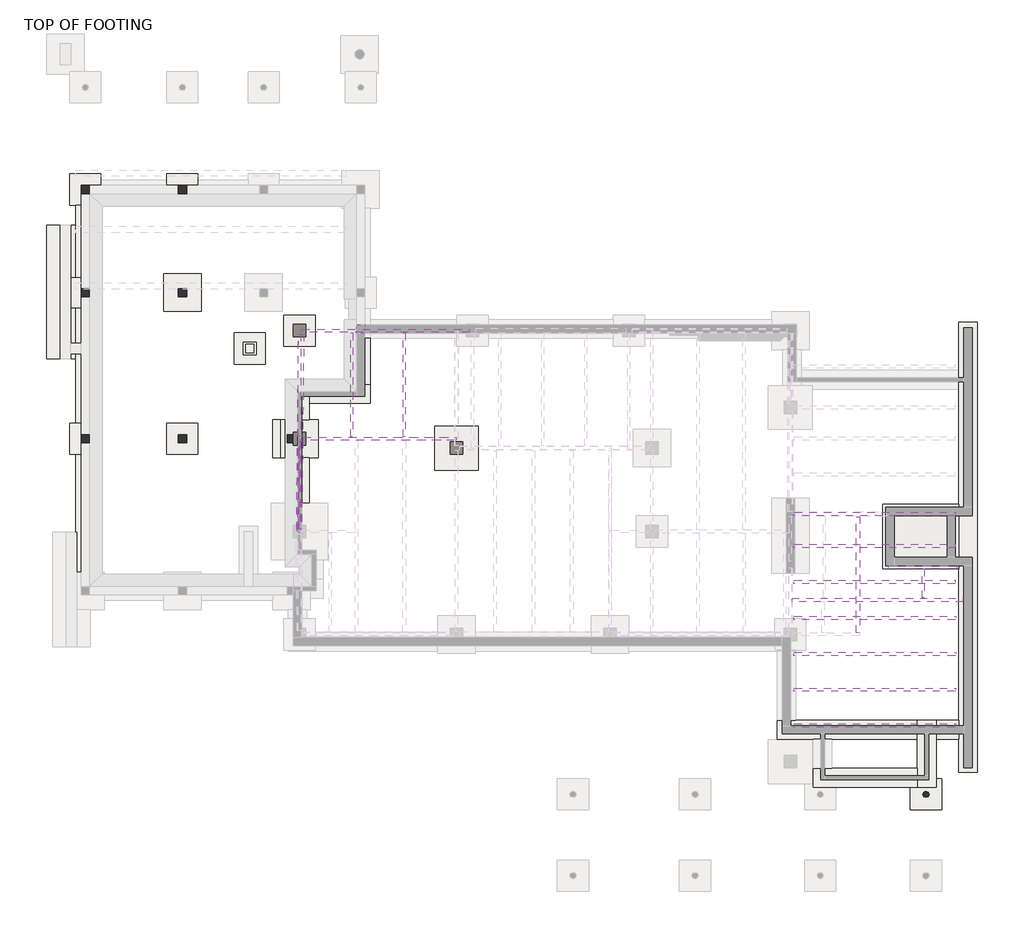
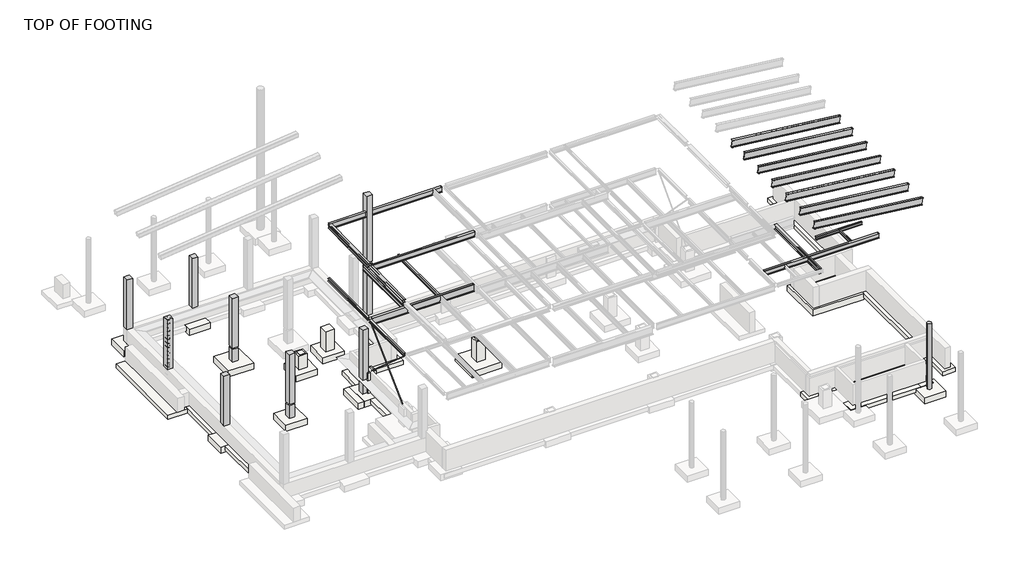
# One storey, part 3 of 5: 20 beams, 13 slabs, 9 columns, 9 footings, 2 members.
"""IFC4 building model written with IfcOpenShell, lengths in millimetres."""

from ifc_helpers import new_model, si_unit, point, frame, frame_2d, origin, place, context, project, spatial, polyline, circle_curve, trimmed, segment, composite_curve, outline, extrude, faceted_brep, transform, mapped, element, save
from components import w_wide_flange_w10x12_2b4455fd, w_wide_flange_w10x49_85831f45, w_wide_flange_w10x49_791f69d4, w_wide_flange_w12x14_94fda763, w_wide_flange_w14x30_e86b3798, w_wide_flange_w14x30_a3fd6266, w_wide_flange_w16x26_a9c838cc, w_wide_flange_w16x26_3658d20b, w_wide_flange_w21x44_417b1038, w_wide_flange_w21x44_42aa095b, w_wide_flange_w21x44_dd8e647a, w_wide_flange_w21x44_bf9ef094, w_wide_flange_w21x44_aedf4de2, w_wide_flange_w21x44_8a3b57d7, w_wide_flange_w21x44_bc81a974, w_wide_flange_w21x44_aeefe74e, w_wide_flange_w8x10_f6404ef0, w_wide_flange_w8x18_62c2d6be, w_wide_flange_w8x18_57e2a91b, slab_df1ede25, slab_6d6a3403, footing_rectangular_with_pier_073162b1, footing_rectangular_with_pier_64681127, footing_rectangular_with_pier_b4053baf

model = new_model("IFC4")

# Units and contexts
model_context = context("Model", 3, world=origin())
ifc_project = project(units=[si_unit("LENGTHUNIT", "METRE", prefix="MILLI")], contexts=[model_context])

# Site, building, storey
site = spatial("IfcSite", under=ifc_project)
building = spatial("IfcBuilding", under=site)
storey = spatial("IfcBuildingStorey", under=building, Name="TOP OF FOOTING", Elevation=28905.2)

# Beams
placement = place(None, origin())
w_wide_flange_w10x12_shape = w_wide_flange_w10x12_2b4455fd(model_context)
element("IfcBeam", 1, ObjectType="W-Wide Flange : W10X12", at=placement, inside=storey, context=model_context, shape_type="MappedRepresentation", body=[
    mapped(w_wide_flange_w10x12_shape, transform((-5235.678794, 5212.7570005, 34253.551), x_axis=(0.0, -1.0, 0.0), y_axis=(1.0, 0.0, 0.0), z_axis=(0.0, 0.0, 1.0))),
])
w_wide_flange_w10x49_shape = w_wide_flange_w10x49_85831f45(model_context)
element("IfcBeam", 2, ObjectType="W-Wide Flange : W10X49", at=placement, inside=storey, context=model_context, shape_type="MappedRepresentation", body=[
    mapped(w_wide_flange_w10x49_shape, transform((-10329.1914876, 323.1484491, 38341.3), x_axis=(0.010666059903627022, 0.9999431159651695, 0.0), y_axis=(-0.9999431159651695, 0.010666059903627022, 0.0), z_axis=(0.0, 0.0, 1.0))),
])
w_wide_flange_w10x49_2_shape = w_wide_flange_w10x49_791f69d4(model_context)
element("IfcBeam", 3, ObjectType="W-Wide Flange : W10X49", at=placement, inside=storey, context=model_context, shape_type="MappedRepresentation", body=[
    mapped(w_wide_flange_w10x49_2_shape, transform((-10277.0536, 5211.0754143, 38341.3), x_axis=(0.010666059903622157, 0.9999431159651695, 0.0), y_axis=(-0.9999431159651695, 0.010666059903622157, 0.0), z_axis=(0.0, 0.0, 1.0))),
])
w_wide_flange_w12x14_shape = w_wide_flange_w12x14_94fda763(model_context)
element("IfcBeam", 4, ObjectType="W-Wide Flange : W12X14", at=placement, inside=storey, context=model_context, shape_type="MappedRepresentation", body=[
    mapped(w_wide_flange_w12x14_shape, transform((-7781.4996274, 5212.7570005, 34227.77), x_axis=(0.0, -1.0, 0.0), y_axis=(1.0, 0.0, 0.0), z_axis=(0.0, 0.0, 1.0))),
])
w_wide_flange_w14x30_shape = w_wide_flange_w14x30_e86b3798(model_context)
element("IfcBeam", 5, ObjectType="W-Wide Flange : W14X30", at=placement, inside=storey, context=model_context, shape_type="MappedRepresentation", body=[
    mapped(w_wide_flange_w14x30_shape, transform((16860.2045393, -4013.7929995, 34203.1339844), x_axis=(0.0, -1.0, 0.0), y_axis=(1.0, 0.0, 0.0), z_axis=(0.0, 0.0, 1.0))),
])
w_wide_flange_w14x30_2_shape = w_wide_flange_w14x30_a3fd6266(model_context)
element("IfcBeam", 6, ObjectType="W-Wide Flange : W14X30", at=placement, inside=storey, context=model_context, shape_type="MappedRepresentation", body=[
    mapped(w_wide_flange_w14x30_2_shape, transform((17765.6930355, -5266.3304995, 34203.1339844), x_axis=(1.0, 0.0, 0.0), y_axis=(0.0, 1.0, 0.0), z_axis=(0.0, 0.0, 1.0))),
])
w_wide_flange_w16x26_shape = w_wide_flange_w16x26_a9c838cc(model_context)
element("IfcBeam", 7, ObjectType="W-Wide Flange : W16X26", at=placement, inside=storey, context=model_context, shape_type="MappedRepresentation", body=[
    mapped(w_wide_flange_w16x26_shape, transform((-6508.5892107, 2582.2695005, 38205.41), x_axis=(1.0, 0.0, 0.0), y_axis=(0.0, 1.0, 0.0), z_axis=(0.0, 0.0, 1.0))),
])
w_wide_flange_w16x26_2_shape = w_wide_flange_w16x26_3658d20b(model_context)
element("IfcBeam", 8, ObjectType="W-Wide Flange : W16X26", at=placement, inside=storey, context=model_context, shape_type="MappedRepresentation", body=[
    mapped(w_wide_flange_w16x26_2_shape, transform((-6107.7454607, 7843.2445005, 38205.41), x_axis=(1.0, 0.0, 0.0), y_axis=(0.0, 1.0, 0.0), z_axis=(0.0, 0.0, 1.0))),
])
w_wide_flange_w21x44_shape = w_wide_flange_w21x44_417b1038(model_context)
element("IfcBeam", 9, ObjectType="W-Wide Flange : W21X44", at=placement, inside=storey, context=model_context, shape_type="MappedRepresentation", body=[
    mapped(w_wide_flange_w21x44_shape, transform((-6508.5892107, 2582.2695005, 34116.01), x_axis=(1.0, 0.0, 0.0), y_axis=(0.0, 1.0, 0.0), z_axis=(0.0, 0.0, 1.0))),
])
w_wide_flange_w21x44_2_shape = w_wide_flange_w21x44_42aa095b(model_context)
element("IfcBeam", 10, ObjectType="W-Wide Flange : W21X44", at=placement, inside=storey, context=model_context, shape_type="MappedRepresentation", body=[
    mapped(w_wide_flange_w21x44_2_shape, transform((17638.6179777, -2648.5678042, 41130.9707091), x_axis=(0.993803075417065, 0.0, -0.1111550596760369), y_axis=(0.0, 1.0000000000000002, 0.0), z_axis=(0.1111550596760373, 0.0, 0.9938030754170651))),
])
w_wide_flange_w21x44_3_shape = w_wide_flange_w21x44_dd8e647a(model_context)
element("IfcBeam", 11, ObjectType="W-Wide Flange : W21X44", at=placement, inside=storey, context=model_context, shape_type="MappedRepresentation", body=[
    mapped(w_wide_flange_w21x44_3_shape, transform((17638.6280266, -1084.8554995, 41130.9695852), x_axis=(0.993803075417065, 0.0, -0.1111550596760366), y_axis=(0.0, 1.0, 0.0), z_axis=(0.11115505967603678, 0.0, 0.9938030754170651))),
])
w_wide_flange_w21x44_4_shape = w_wide_flange_w21x44_bf9ef094(model_context)
element("IfcBeam", 12, ObjectType="W-Wide Flange : W21X44", at=placement, inside=storey, context=model_context, shape_type="MappedRepresentation", body=[
    mapped(w_wide_flange_w21x44_4_shape, transform((17644.6506444, -11391.7447247, 41130.2959664), x_axis=(0.9938030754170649, 0.0, -0.11115505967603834), y_axis=(0.0, 1.0000000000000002, 0.0), z_axis=(0.11115505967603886, 0.0, 0.9938030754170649))),
])
w_wide_flange_w21x44_5_shape = w_wide_flange_w21x44_aedf4de2(model_context)
element("IfcBeam", 13, ObjectType="W-Wide Flange : W21X44", at=placement, inside=storey, context=model_context, shape_type="MappedRepresentation", body=[
    mapped(w_wide_flange_w21x44_5_shape, transform((17643.3647414, -9643.1093406, 41130.4397923), x_axis=(0.9938030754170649, 0.0, -0.11115505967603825), y_axis=(0.0, 1.0, 0.0), z_axis=(0.11115505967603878, 0.0, 0.9938030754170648))),
])
w_wide_flange_w21x44_6_shape = w_wide_flange_w21x44_8a3b57d7(model_context)
element("IfcBeam", 14, ObjectType="W-Wide Flange : W21X44", at=placement, inside=storey, context=model_context, shape_type="MappedRepresentation", body=[
    mapped(w_wide_flange_w21x44_6_shape, transform((17642.0788384, -7894.4739565, 41130.5836182), x_axis=(0.9938030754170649, 0.0, -0.11115505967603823), y_axis=(0.0, 1.0, 0.0), z_axis=(0.11115505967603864, 0.0, 0.9938030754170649))),
])
w_wide_flange_w21x44_7_shape = w_wide_flange_w21x44_bc81a974(model_context)
element("IfcBeam", 15, ObjectType="W-Wide Flange : W21X44", at=placement, inside=storey, context=model_context, shape_type="MappedRepresentation", body=[
    mapped(w_wide_flange_w21x44_7_shape, transform((17640.7929353, -6145.8385724, 41130.7274441), x_axis=(0.9938030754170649, 0.0, -0.1111550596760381), y_axis=(0.0, 1.0, 0.0), z_axis=(0.1111550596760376, 0.0, 0.993803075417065))),
])
w_wide_flange_w21x44_8_shape = w_wide_flange_w21x44_aeefe74e(model_context)
element("IfcBeam", 16, ObjectType="W-Wide Flange : W21X44", at=placement, inside=storey, context=model_context, shape_type="MappedRepresentation", body=[
    mapped(w_wide_flange_w21x44_8_shape, transform((17639.5070323, -4397.2031883, 41130.87127), x_axis=(0.993803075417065, 0.0, -0.11115505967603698), y_axis=(0.0, 1.0, 0.0), z_axis=(0.11115505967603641, 0.0, 0.993803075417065))),
])
w_wide_flange_w8x10_shape = w_wide_flange_w8x10_f6404ef0(model_context)
element("IfcBeam", 17, ObjectType="W-Wide Flange : W8X10", at=placement, inside=storey, context=model_context, shape_type="MappedRepresentation", body=[
    mapped(w_wide_flange_w8x10_shape, transform((20035.2045393, -4470.9929995, 34278.697), x_axis=(0.0, 1.0, 0.0), y_axis=(-1.0, 0.0, 0.0), z_axis=(0.0, 0.0, 1.0))),
])
element("IfcBeam", 18, ObjectType="W-Wide Flange : W8X18", at=placement, inside=storey, context=model_context, shape_type="SweptSolid", body=[
    extrude(outline(composite_curve([segment(polyline([(34180.526, -10260.6454607), (34180.526, -10312.1439607)]), True, "CONTINUOUS"), segment(trimmed(circle_curve(frame_2d((34192.7815, -10312.1439607)), 12.2555), [point((34180.526, -10312.1439607))], [point((34192.7815, -10324.3994607))], True, "CARTESIAN"), True, "CONTINUOUS"), segment(polyline([(34192.7815, -10324.3994607), (34358.2625, -10324.3994607)]), True, "CONTINUOUS"), segment(trimmed(circle_curve(frame_2d((34358.2625, -10312.1439607)), 12.2555), [point((34358.2625, -10324.3994607))], [point((34370.518, -10312.1439607))], True, "CARTESIAN"), True, "CONTINUOUS"), segment(polyline([(34370.518, -10312.1439607), (34370.518, -10260.6454607), (34378.9, -10260.6454607), (34378.9, -10393.9954607), (34370.518, -10393.9954607), (34370.518, -10342.4969607)]), True, "CONTINUOUS"), segment(trimmed(circle_curve(frame_2d((34358.2625, -10342.4969607)), 12.2555), [point((34370.518, -10342.4969607))], [point((34358.2625, -10330.2414607))], True, "CARTESIAN"), True, "CONTINUOUS"), segment(polyline([(34358.2625, -10330.2414607), (34192.7815, -10330.2414607)]), True, "CONTINUOUS"), segment(trimmed(circle_curve(frame_2d((34192.7815, -10342.4969607)), 12.2555), [point((34192.7815, -10330.2414607))], [point((34180.526, -10342.4969607))], True, "CARTESIAN"), True, "CONTINUOUS"), segment(polyline([(34180.526, -10342.4969607), (34180.526, -10393.9954607), (34172.144, -10393.9954607), (34172.144, -10260.6454607), (34180.526, -10260.6454607)]), True, "CONTINUOUS")], self_intersect=False)), frame((0.0, -1820.3779639, 0.0), z_axis=(0.0, 1.0, 0.0), x_axis=(0.0, 0.0, 1.0)), (0.0, 0.0, 1.0), 4288.297855),
])
w_wide_flange_w8x18_shape = w_wide_flange_w8x18_62c2d6be(model_context)
element("IfcBeam", 19, ObjectType="W-Wide Flange : W8X18", at=placement, inside=storey, context=model_context, shape_type="MappedRepresentation", body=[
    mapped(w_wide_flange_w8x18_shape, transform((-10327.3204607, 5211.4620266, 34275.522), x_axis=(0.0, -1.0, 0.0), y_axis=(1.0, 0.0, 0.0), z_axis=(0.0, 0.0, 1.0))),
])
w_wide_flange_w8x18_2_shape = w_wide_flange_w8x18_57e2a91b(model_context)
element("IfcBeam", 20, ObjectType="W-Wide Flange : W8X18", at=placement, inside=storey, context=model_context, shape_type="MappedRepresentation", body=[
    mapped(w_wide_flange_w8x18_2_shape, transform((20017.7420393, -3675.6554995, 34275.522), x_axis=(1.0, 0.0, 0.0), y_axis=(0.0, 1.0, 0.0), z_axis=(0.0, 0.0, 1.0))),
])

# Columns
element("IfcColumn", 21, ObjectType="Concrete-Rectangular-Column : 16 x 16", at=placement, inside=storey, context=model_context, shape_type="Brep", body=[
    faceted_brep([(-20560.3454607, 14926.6695005, 33782.0), (-20560.3454607, 14520.2695005, 33782.0), (-20560.3454607, 14520.2695005, 29972.0), (-20560.3454607, 14926.6695005, 29972.0), (-20966.7454607, 14520.2695005, 33782.0), (-20966.7454607, 14520.2695005, 29972.0), (-20966.7454607, 14926.6695005, 33782.0), (-20966.7454607, 14926.6695005, 29972.0), (-20661.9454607, 14926.6695005, 33782.0)], [[[0, 1, 2, 3]], [[1, 4, 5, 2]], [[4, 6, 7, 5]], [[6, 8, 0, 3, 7]], [[1, 0, 8, 6, 4]], [[3, 2, 5, 7]]]),
])
element("IfcColumn", 22, ObjectType="Concrete-Rectangular-Column : 16 x 16", at=placement, inside=storey, context=model_context, shape_type="SweptSolid", body=[
    extrude(outline(polyline([(-15835.9454607, 14926.6695005), (-15835.9454607, 14520.2695005), (-16242.3454607, 14520.2695005), (-16242.3454607, 14926.6695005), (-15835.9454607, 14926.6695005)])), frame((0.0, 0.0, 29972.0), z_axis=(0.0, 0.0, 1.0), x_axis=(1.0, 0.0, 0.0)), (0.0, 0.0, 1.0), 3810.0),
])
element("IfcColumn", 23, ObjectType="Concrete-Rectangular-Column : 16 x 16", at=placement, inside=storey, context=model_context, shape_type="Brep", body=[
    faceted_brep([(-20560.3454607, 9897.4695005, 33782.0), (-20560.3454607, 9491.0695005, 33782.0), (-20560.3454607, 9491.0695005, 29972.0), (-20560.3454607, 9897.4695005, 29972.0), (-20661.9454607, 9491.0695005, 33782.0), (-20966.7454607, 9491.0695005, 33782.0), (-20966.7454607, 9491.0695005, 29972.0), (-20966.7454607, 9897.4695005, 33782.0), (-20966.7454607, 9897.4695005, 29972.0)], [[[0, 1, 2, 3]], [[1, 4, 5, 6, 2]], [[5, 7, 8, 6]], [[7, 0, 3, 8]], [[1, 0, 7, 5, 4]], [[3, 2, 6, 8]]]),
])
element("IfcColumn", 24, ObjectType="Concrete-Rectangular-Column : 16 x 16", at=placement, inside=storey, context=model_context, shape_type="Brep", body=[
    faceted_brep([(-15835.9454607, 9897.4695005, 28905.2), (-15835.9454607, 9491.0695005, 28905.2), (-16242.3454607, 9491.0695005, 28905.2), (-16242.3454607, 9897.4695005, 28905.2), (-15835.9454607, 9491.0695005, 29870.4), (-15835.9454607, 9897.4695005, 29870.4), (-16242.3454607, 9897.4695005, 29870.4), (-16242.3454607, 9491.0695005, 29870.4)], [[[0, 1, 2, 3]], [[4, 5, 6, 7]], [[1, 0, 5, 4]], [[2, 1, 4, 7]], [[3, 2, 7, 6]], [[0, 3, 6, 5]]]),
    faceted_brep([(-15835.9454607, 9897.4695005, 33782.0), (-15835.9454607, 9491.0695005, 33782.0), (-15835.9454607, 9491.0695005, 29972.0), (-15835.9454607, 9897.4695005, 29972.0), (-15886.7454607, 9491.0695005, 33782.0), (-16191.5454607, 9491.0695005, 33782.0), (-16242.3454607, 9491.0695005, 33782.0), (-16242.3454607, 9491.0695005, 29972.0), (-16242.3454607, 9897.4695005, 33782.0), (-16242.3454607, 9897.4695005, 29972.0)], [[[0, 1, 2, 3]], [[1, 4, 5, 6, 7, 2]], [[6, 8, 9, 7]], [[8, 0, 3, 9]], [[1, 0, 8, 6, 5, 4]], [[3, 2, 7, 9]]]),
])
element("IfcColumn", 25, ObjectType="Concrete-Rectangular-Column : 16 x 16", at=placement, inside=storey, context=model_context, shape_type="SweptSolid", body=[
    extrude(outline(polyline([(-20560.3454607, 2785.4695005), (-20560.3454607, 2379.0695005), (-20966.7454607, 2379.0695005), (-20966.7454607, 2785.4695005), (-20560.3454607, 2785.4695005)])), frame((0.0, 0.0, 29972.0), z_axis=(0.0, 0.0, 1.0), x_axis=(1.0, 0.0, 0.0)), (0.0, 0.0, 1.0), 3810.0),
])
element("IfcColumn", 26, ObjectType="Concrete-Rectangular-Column : 16 x 16", at=placement, inside=storey, context=model_context, shape_type="SweptSolid", body=[
    extrude(outline(polyline([(-10529.7763201, 2785.4695005), (-10529.7763201, 2379.0695005), (-10936.1763201, 2379.0695005), (-10936.1763201, 2785.4695005), (-10529.7763201, 2785.4695005)])), frame((0.0, 0.0, 28905.2), z_axis=(0.0, 0.0, 1.0), x_axis=(1.0, 0.0, 0.0)), (0.0, 0.0, 1.0), 965.2),
    extrude(outline(polyline([(-10529.7763201, 2785.4695005), (-10529.7763201, 2379.0695005), (-10936.1763201, 2379.0695005), (-10936.1763201, 2785.4695005), (-10529.7763201, 2785.4695005)])), frame((0.0, 0.0, 29972.0), z_axis=(0.0, 0.0, 1.0), x_axis=(1.0, 0.0, 0.0)), (0.0, 0.0, 1.0), 3810.0),
])
element("IfcColumn", 27, ObjectType="Concrete-Rectangular-Column : 16 x 16", at=placement, inside=storey, context=model_context, shape_type="SweptSolid", body=[
    extrude(outline(polyline([(-15835.9454607, 2785.4695005), (-15835.9454607, 2379.0695005), (-16242.3454607, 2379.0695005), (-16242.3454607, 2785.4695005), (-15835.9454607, 2785.4695005)])), frame((0.0, 0.0, 28905.2), z_axis=(0.0, 0.0, 1.0), x_axis=(1.0, 0.0, 0.0)), (0.0, 0.0, 1.0), 965.2),
    extrude(outline(polyline([(-15835.9454607, 2785.4695005), (-15835.9454607, 2379.0695005), (-16242.3454607, 2379.0695005), (-16242.3454607, 2785.4695005), (-15835.9454607, 2785.4695005)])), frame((0.0, 0.0, 29972.0), z_axis=(0.0, 0.0, 1.0), x_axis=(1.0, 0.0, 0.0)), (0.0, 0.0, 1.0), 3810.0),
])
element("IfcColumn", 28, ObjectType="Concrete-Rectangular-Column : 16 x 16", at=placement, inside=storey, context=model_context, shape_type="Brep", body=[
    faceted_brep([(-7149.1454607, 8132.1695005, 39622.9085937), (-7149.1454607, 7725.7695005, 39622.9085937), (-7149.1454607, 7725.7695005, 38595.3), (-7149.1454607, 7725.7695005, 38468.3), (-7149.1454607, 7725.7695005, 34544.0), (-7149.1454607, 7944.8445005, 34544.0), (-7149.1454607, 7944.8445005, 34378.9), (-7149.1454607, 7725.7695005, 34378.9), (-7149.1454607, 7725.7695005, 30480.0), (-7149.1454607, 8132.1695005, 30480.0), (-7149.1454607, 8132.1695005, 33782.0), (-7149.1454607, 8132.1695005, 34036.0), (-7149.1454607, 8132.1695005, 34239.2), (-7555.5454607, 7725.7695005, 39622.9085937), (-7555.5454607, 7725.7695005, 38595.3), (-7555.5454607, 7725.7695005, 38468.3), (-7555.5454607, 7725.7695005, 34544.0), (-7555.5454607, 8132.1695005, 39622.9085937), (-7555.5454607, 8132.1695005, 34239.2), (-7555.5454607, 8132.1695005, 34036.0), (-7555.5454607, 8132.1695005, 30480.0), (-7555.5454607, 7725.7695005, 30480.0), (-7555.5454607, 7725.7695005, 34378.9), (-7555.5454607, 7944.8445005, 34378.9), (-7555.5454607, 7944.8445005, 34544.0)], [[[0, 1, 2, 3, 4, 5, 6, 7, 8, 9, 10, 11, 12]], [[1, 13, 14, 15, 16, 4, 3, 2]], [[13, 17, 18, 19, 20, 21, 22, 23, 24, 16, 15, 14]], [[17, 0, 12, 11, 10, 9, 20, 19, 18]], [[1, 0, 17, 13]], [[9, 8, 21, 20]], [[6, 23, 22, 7]], [[24, 5, 4, 16]], [[23, 6, 5, 24]], [[21, 8, 7, 22]]]),
])
element("IfcColumn", 29, ObjectType="Concrete-Round-Column1 : 12\"", at=placement, inside=storey, context=model_context, shape_type="SweptSolid", body=[
    extrude(outline(composite_curve([segment(trimmed(circle_curve(frame_2d((20168.0462086, -14731.7497924)), 152.4), [point((20015.6462086, -14731.7497924))], [point((20320.4462086, -14731.7497924))], False, "CARTESIAN"), True, "CONTINUOUS"), segment(trimmed(circle_curve(frame_2d((20168.0462086, -14731.7497924)), 152.4), [point((20320.4462086, -14731.7497924))], [point((20015.6462086, -14731.7497924))], False, "CARTESIAN"), True, "CONTINUOUS")], self_intersect=False)), frame((0.0, 0.0, 28854.4), z_axis=(0.0, 0.0, 1.0), x_axis=(1.0, 0.0, 0.0)), (0.0, 0.0, 1.0), 5003.8),
])

# Footings
element("IfcFooting", 30, ObjectType="Bearing Footing - 36\" x 12\"", at=placement, inside=storey, context=model_context, shape_type="Brep", body=[
    faceted_brep([(21765.578935, 8249.5948911, 28905.2), (22679.978935, 8249.5948911, 28905.2), (22679.978935, 8249.5948911, 28600.4), (21765.578935, 8249.5948911, 28600.4), (22679.978935, -13661.0304995, 28905.2), (21765.578935, -13661.0304995, 28905.2), (21765.578935, -13661.0304995, 28600.4), (22679.978935, -13661.0304995, 28600.4), (21765.578935, 5909.6695005, 28905.2), (21765.578935, 4995.2695005, 28905.2), (21765.578935, -11127.3804995, 28905.2), (21765.578935, -12041.7804995, 28905.2), (21765.578935, -12041.7804995, 28600.4), (21765.578935, -11127.3804995, 28600.4), (21765.578935, 4995.2695005, 28600.4), (21765.578935, 5909.6695005, 28600.4)], [[[0, 1, 2, 3]], [[4, 5, 6, 7]], [[0, 8, 9, 10, 11, 5, 4, 1]], [[2, 1, 4, 7]], [[3, 2, 7, 6, 12, 13, 14, 15]], [[0, 3, 15, 14, 13, 12, 6, 5, 11, 10, 9, 8]]]),
])
element("IfcFooting", 31, ObjectType="Bearing Footing - 36\" x 12\"", at=placement, inside=storey, context=model_context, shape_type="Brep", body=[
    faceted_brep([(19749.4545393, -11127.3804995, 28905.2), (19749.4545393, -12041.7804995, 28905.2), (19749.4545393, -13470.5304995, 28905.2), (19749.4545393, -14384.9304995, 28905.2), (20663.8545393, -14384.9304995, 28905.2), (20663.8545393, -12041.7804995, 28905.2), (20663.8545393, -11127.3804995, 28905.2), (19749.4545393, -11127.3804995, 28600.4), (19749.4545393, -12041.7804995, 28600.4), (19749.4545393, -13470.5304995, 28600.4), (19749.4545393, -13969.7497924, 28600.4), (19749.4545393, -13969.7497924, 28854.4), (19749.4545393, -14384.9304995, 28854.4), (20663.8545393, -11127.3804995, 28600.4), (20663.8545393, -12041.7804995, 28600.4), (20663.8545393, -13969.7497924, 28600.4), (20663.8545393, -14384.9304995, 28854.4), (20663.8545393, -13969.7497924, 28854.4)], [[[0, 1, 2, 3, 4, 5, 6]], [[3, 2, 1, 0, 7, 8, 9, 10, 11, 12]], [[7, 13, 14, 15, 10, 9, 8]], [[6, 5, 4, 16, 17, 15, 14, 13]], [[0, 6, 13, 7]], [[4, 3, 12, 16]], [[11, 17, 16, 12]], [[17, 11, 10, 15]]]),
])
element("IfcFooting", 32, ObjectType="Bearing Footing - 36\" x 12\"", at=placement, inside=storey, context=model_context, shape_type="Brep", body=[
    faceted_brep([(19749.4545393, -12041.7804995, 28905.2), (19749.4545393, -11127.3804995, 28905.2), (13837.6045393, -11127.3804995, 28905.2), (12923.2045393, -11127.3804995, 28905.2), (12923.2045393, -12041.7804995, 28905.2), (14682.1545393, -12041.7804995, 28905.2), (15596.5545393, -12041.7804995, 28905.2), (19749.4545393, -12041.7804995, 28600.4), (12923.2045393, -12041.7804995, 28600.4), (14682.1545393, -12041.7804995, 28600.4), (15596.5545393, -12041.7804995, 28600.4), (19749.4545393, -11127.3804995, 28600.4), (12923.2045393, -11127.3804995, 28600.4), (13837.6045393, -11127.3804995, 28600.4)], [[[0, 1, 2, 3, 4, 5, 6]], [[7, 0, 6, 5, 4, 8, 9, 10]], [[11, 7, 10, 9, 8, 12, 13]], [[1, 11, 13, 12, 3, 2]], [[1, 0, 7, 11]], [[4, 3, 12, 8]]]),
    faceted_brep([(20663.8545393, -11127.3804995, 28905.2), (20663.8545393, -12041.7804995, 28905.2), (21765.578935, -12041.7804995, 28905.2), (21765.578935, -11127.3804995, 28905.2), (20663.8545393, -12041.7804995, 28600.4), (21765.578935, -12041.7804995, 28600.4), (20663.8545393, -11127.3804995, 28600.4), (21765.578935, -11127.3804995, 28600.4)], [[[0, 1, 2, 3]], [[1, 4, 5, 2]], [[4, 6, 7, 5]], [[6, 0, 3, 7]], [[1, 0, 6, 4]], [[3, 2, 5, 7]]]),
])
element("IfcFooting", 33, ObjectType="Bearing Footing - 36\" x 12\"", at=placement, inside=storey, context=model_context, shape_type="Brep", body=[
    faceted_brep([(14682.1545393, -14384.9304995, 28905.2), (19749.4545393, -14384.9304995, 28905.2), (19749.4545393, -13470.5304995, 28905.2), (15596.5545393, -13470.5304995, 28905.2), (14682.1545393, -13470.5304995, 28905.2), (19749.4545393, -13470.5304995, 28600.4), (15596.5545393, -13470.5304995, 28600.4), (14682.1545393, -13470.5304995, 28600.4), (19749.4545393, -13969.7497924, 28600.4), (19406.0462086, -13969.7497924, 28600.4), (19406.0462086, -14384.9304995, 28600.4), (15786.5462086, -14384.9304995, 28600.4), (15786.5462086, -13969.7497924, 28600.4), (14682.1545393, -13969.7497924, 28600.4), (14682.1545393, -14384.9304995, 28854.4), (15786.5462086, -14384.9304995, 28854.4), (19406.0462086, -14384.9304995, 28854.4), (19749.4545393, -14384.9304995, 28854.4), (19749.4545393, -13969.7497924, 28854.4), (14682.1545393, -13969.7497924, 28854.4), (15786.5462086, -13969.7497924, 28854.4), (19406.0462086, -13969.7497924, 28854.4)], [[[0, 1, 2, 3, 4]], [[4, 3, 2, 5, 6, 7]], [[7, 6, 5, 8, 9, 10, 11, 12, 13]], [[1, 0, 14, 15, 11, 10, 16, 17]], [[2, 1, 17, 18, 8, 5]], [[0, 4, 7, 13, 19, 14]], [[20, 15, 14, 19]], [[12, 20, 19, 13]], [[15, 20, 12, 11]], [[16, 21, 18, 17]], [[18, 21, 9, 8]], [[21, 16, 10, 9]]]),
])
element("IfcFooting", 34, ObjectType="Bearing Footing - 36\" x 12\"", at=placement, inside=storey, context=model_context, shape_type="Brep", body=[
    faceted_brep([(-10784.5204607, -564.1554995, 28905.2), (-9870.1204607, -564.1554995, 28905.2), (-9870.1204607, 1667.8695005, 28905.2), (-10784.5204607, 1667.8695005, 28905.2), (-10784.5204607, -3396.2554995, 28905.2), (-10082.8454607, -3396.2554995, 28905.2), (-9870.1204607, -3396.2554995, 28905.2), (-9870.1204607, -3307.3554995, 28905.2), (-10784.5204607, -3307.3554995, 28905.2), (-10784.5204607, -564.1554995, 28625.8), (-10784.5204607, 1667.8695005, 28600.4), (-10784.5204607, -3396.2554995, 28600.4), (-10784.5204607, -3307.3554995, 28625.8), (-9870.1204607, -3396.2554995, 28600.4), (-10082.8454607, -3396.2554995, 28600.4), (-9870.1204607, 1667.8695005, 28600.4), (-9870.1204607, -2481.8554995, 28600.4), (-9870.1204607, -564.1554995, 28625.8), (-9870.1204607, -2481.8554995, 28625.8), (-9870.1204607, -3307.3554995, 28625.8)], [[[0, 1, 2, 3]], [[4, 5, 6, 7, 8]], [[9, 0, 3, 10, 11, 4, 8, 12]], [[13, 14, 11, 10, 15, 16]], [[1, 17, 18, 19, 7, 6, 13, 16, 15, 2]], [[1, 0, 9, 17]], [[3, 2, 15, 10]], [[6, 5, 4, 11, 14, 13]], [[8, 7, 19, 12]], [[17, 9, 12, 19, 18]]]),
    faceted_brep([(-9870.1204607, 5220.6945005, 28905.2), (-10784.5204607, 5220.6945005, 28905.2), (-10784.5204607, 3496.6695005, 28905.2), (-9870.1204607, 3496.6695005, 28905.2), (-9870.1204607, 4306.2945005, 28905.2), (-10784.5204607, 5220.6945005, 28600.4), (-10784.5204607, 3496.6695005, 28600.4), (-9870.1204607, 5220.6945005, 28600.4), (-9870.1204607, 4306.2945005, 28600.4), (-9870.1204607, 3496.6695005, 28600.4)], [[[0, 1, 2, 3, 4]], [[1, 5, 6, 2]], [[5, 7, 8, 9, 6]], [[7, 0, 4, 3, 9, 8]], [[3, 2, 6, 9]], [[1, 0, 7, 5]]]),
])
element("IfcFooting", 35, ObjectType="Bearing Footing - 36\" x 12\"", at=placement, inside=storey, context=model_context, shape_type="Brep", body=[
    faceted_brep([(-21220.7454607, -3907.4304995, 28905.2), (-20306.3454607, -3907.4304995, 28905.2), (-20306.3454607, 1820.2695005, 28905.2), (-21220.7454607, 1820.2695005, 28905.2), (-21220.7454607, -1964.3304995, 28905.2), (-21220.7454607, -3907.4304995, 28600.4), (-21220.7454607, 1820.2695005, 28600.4), (-21220.7454607, -1964.3304995, 28600.4), (-20306.3454607, -3907.4304995, 28600.4), (-20306.3454607, 1820.2695005, 28600.4)], [[[0, 1, 2, 3, 4]], [[5, 0, 4, 3, 6, 7]], [[8, 5, 7, 6, 9]], [[1, 8, 9, 2]], [[1, 0, 5, 8]], [[3, 2, 9, 6]]]),
    faceted_brep([(-21220.7454607, 3344.2695005, 28905.2), (-20306.3454607, 3344.2695005, 28905.2), (-20306.3454607, 8932.2695005, 28905.2), (-21220.7454607, 8932.2695005, 28905.2), (-21220.7454607, 6469.2695005, 28905.2), (-21220.7454607, 3344.2695005, 28600.4), (-21220.7454607, 8932.2695005, 28600.4), (-21220.7454607, 6469.2695005, 28600.4), (-20306.3454607, 3344.2695005, 28600.4), (-20306.3454607, 8932.2695005, 28600.4)], [[[0, 1, 2, 3, 4]], [[5, 0, 4, 3, 6, 7]], [[8, 5, 7, 6, 9]], [[1, 8, 9, 2]], [[1, 0, 5, 8]], [[3, 2, 9, 6]]]),
    faceted_brep([(-21220.7454607, 10456.2695005, 28905.2), (-20306.3454607, 10456.2695005, 28905.2), (-20306.3454607, 13961.4695005, 28905.2), (-21220.7454607, 13961.4695005, 28905.2), (-21220.7454607, 12968.7995005, 28905.2), (-21220.7454607, 10456.2695005, 28600.4), (-21220.7454607, 13961.4695005, 28600.4), (-21220.7454607, 12968.7995005, 28600.4), (-20306.3454607, 10456.2695005, 28600.4), (-20306.3454607, 13961.4695005, 28600.4)], [[[0, 1, 2, 3, 4]], [[5, 0, 4, 3, 6, 7]], [[8, 5, 7, 6, 9]], [[1, 8, 9, 2]], [[1, 0, 5, 8]], [[3, 2, 9, 6]]]),
])
element("IfcFooting", 36, ObjectType="Bearing Footing - 36\" x 12\"", at=placement, inside=storey, context=model_context, shape_type="Brep", body=[
    faceted_brep([(-6895.1454607, 4306.2945005, 28905.2), (-6895.1454607, 5220.6945005, 28905.2), (-7809.5454607, 5220.6945005, 28905.2), (-9870.1204607, 5220.6945005, 28905.2), (-9870.1204607, 4306.2945005, 28905.2), (-6895.1454607, 4306.2945005, 28600.4), (-9870.1204607, 4306.2945005, 28600.4), (-6895.1454607, 5220.6945005, 28600.4), (-9870.1204607, 5220.6945005, 28600.4), (-7809.5454607, 5220.6945005, 28600.4)], [[[0, 1, 2, 3, 4]], [[5, 0, 4, 6]], [[7, 5, 6, 8, 9]], [[1, 7, 9, 8, 3, 2]], [[4, 3, 8, 6]], [[1, 0, 5, 7]]]),
])
element("IfcFooting", 37, ObjectType="Bearing Footing - 36\" x 12\"", at=placement, inside=storey, context=model_context, shape_type="SweptSolid", body=[
    extrude(outline(polyline([(-7809.5454607, 7471.7695005), (-6895.1454607, 7471.7695005), (-6895.1454607, 5220.6945005), (-7809.5454607, 5220.6945005), (-7809.5454607, 7471.7695005)])), frame((0.0, 0.0, 28600.4), z_axis=(0.0, 0.0, 1.0), x_axis=(1.0, 0.0, 0.0)), (0.0, 0.0, 1.0), 304.8),
])
element("IfcFooting", 38, ObjectType="Bearing Footing - 72\" x 12\" 2", at=placement, inside=storey, context=model_context, shape_type="SweptSolid", body=[
    extrude(outline(polyline([(-22651.3734711, 6469.2695005), (-22651.3734711, 12968.7995005), (-21220.7454607, 12968.7995005), (-21220.7454607, 10456.2695005), (-21525.5454607, 10456.2695005), (-21525.5454607, 8932.2695005), (-21220.7454607, 8932.2695005), (-21220.7454607, 6469.2695005), (-22651.3734711, 6469.2695005)])), frame((0.0, 0.0, 28600.4), z_axis=(0.0, 0.0, 1.0), x_axis=(1.0, 0.0, 0.0)), (0.0, 0.0, 1.0), 304.8),
])

# Members
element("IfcMember", 39, ObjectType="Round Bar : 1\"", at=placement, inside=storey, context=model_context, shape_type="SweptSolid", body=[
    extrude(outline(composite_curve([segment(trimmed(circle_curve(frame_2d((0.0, -12.7)), 12.7), [point((0.0, -25.4))], [point((0.0, 0.0))], False, "CARTESIAN"), True, "CONTINUOUS"), segment(trimmed(circle_curve(frame_2d((0.0, -12.7)), 12.7), [point((0.0, 0.0))], [point((0.0, -25.4))], False, "CARTESIAN"), True, "CONTINUOUS")], self_intersect=False)), frame((-10314.6204607, 2572.7327799, 30310.5869527), z_axis=(0.0, -0.7509228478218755, 0.6603899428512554), x_axis=(0.0, -0.6603899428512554, -0.7509228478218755)), (0.0, 0.0, 1.0), 5820.248198),
])
element("IfcMember", 40, ObjectType="Round Bar : 1\"", at=placement, inside=storey, context=model_context, shape_type="SweptSolid", body=[
    extrude(outline(composite_curve([segment(trimmed(circle_curve(frame_2d((0.0, -12.7)), 12.7), [point((0.0, -25.4))], [point((0.0, 0.0))], False, "CARTESIAN"), True, "CONTINUOUS"), segment(trimmed(circle_curve(frame_2d((0.0, -12.7)), 12.7), [point((0.0, 0.0))], [point((0.0, -25.4))], False, "CARTESIAN"), True, "CONTINUOUS")], self_intersect=False)), frame((-10436.1797347, -1925.003866, 30310.6852673), z_axis=(0.016204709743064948, 0.7438669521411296, 0.6681312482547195), x_axis=(0.014551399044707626, 0.6679727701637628, -0.7440434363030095)), (0.0, 0.0, 1.0), 5752.6483371),
])

# Slabs
element("IfcSlab", 41, ObjectType="8\" Foundation Slab", at=placement, inside=storey, context=model_context, shape_type="SweptSolid", body=[
    extrude(outline(polyline([(18067.4486799, -605.4304995), (21758.3861799, -605.4304995), (21758.3861799, -3755.0304995), (18067.4486799, -3755.0304995), (18067.4486799, -605.4304995)])), frame((0.0, 0.0, 28448.0), z_axis=(0.0, 0.0, 1.0), x_axis=(1.0, 0.0, 0.0)), (0.0, 0.0, 1.0), 457.2),
])
element("IfcSlab", 42, ObjectType="Footing-Rectangular : 5'-0\" x 5'-0\" x 1'-6\"", at=placement, inside=storey, context=model_context, shape_type="Brep", body=[
    faceted_brep([(-20001.5454607, 3344.2695005, 28905.2), (-20306.3454607, 3344.2695005, 28905.2), (-21220.7454607, 3344.2695005, 28905.2), (-21525.5454607, 3344.2695005, 28905.2), (-21525.5454607, 1820.2695005, 28905.2), (-21220.7454607, 1820.2695005, 28905.2), (-20306.3454607, 1820.2695005, 28905.2), (-20001.5454607, 1820.2695005, 28905.2), (-20001.5454607, 3344.2695005, 28448.0), (-20001.5454607, 1820.2695005, 28448.0), (-21525.5454607, 1820.2695005, 28448.0), (-21525.5454607, 3344.2695005, 28448.0)], [[[0, 1, 2, 3, 4, 5, 6, 7]], [[8, 9, 10, 11]], [[3, 2, 1, 0, 8, 11]], [[4, 3, 11, 10]], [[7, 6, 5, 4, 10, 9]], [[0, 7, 9, 8]]]),
])
element("IfcSlab", 43, ObjectType="Footing-Rectangular : 5'-0\" x 5'-0\" x 1'-6\"", at=placement, inside=storey, context=model_context, shape_type="Brep", body=[
    faceted_brep([(-20001.5454607, 10456.2695005, 28905.2), (-20306.3454607, 10456.2695005, 28905.2), (-21220.7454607, 10456.2695005, 28905.2), (-21525.5454607, 10456.2695005, 28905.2), (-21525.5454607, 8932.2695005, 28905.2), (-21220.7454607, 8932.2695005, 28905.2), (-20306.3454607, 8932.2695005, 28905.2), (-20001.5454607, 8932.2695005, 28905.2), (-20001.5454607, 10456.2695005, 28448.0), (-20001.5454607, 8932.2695005, 28448.0), (-21525.5454607, 8932.2695005, 28448.0), (-21525.5454607, 10456.2695005, 28448.0), (-21525.5454607, 10456.2695005, 28600.4), (-21525.5454607, 8932.2695005, 28600.4)], [[[0, 1, 2, 3, 4, 5, 6, 7]], [[8, 9, 10, 11]], [[3, 2, 1, 0, 8, 11, 12]], [[4, 3, 12, 11, 10, 13]], [[7, 6, 5, 4, 13, 10, 9]], [[0, 7, 9, 8]]]),
])
element("IfcSlab", 44, ObjectType="Footing-Rectangular : 5'-0\" x 5'-0\" x 1'-6\"", at=placement, inside=storey, context=model_context, shape_type="Brep", body=[
    faceted_brep([(-15277.1454607, 15485.4695005, 28905.2), (-16801.1454607, 15485.4695005, 28905.2), (-16801.1454607, 15180.6695005, 28905.2), (-16801.1454607, 14266.2695005, 28905.2), (-16801.1454607, 13961.4695005, 28905.2), (-15277.1454607, 13961.4695005, 28905.2), (-15277.1454607, 14266.2695005, 28905.2), (-15277.1454607, 15180.6695005, 28905.2), (-15277.1454607, 15485.4695005, 28448.0), (-15277.1454607, 13961.4695005, 28448.0), (-16801.1454607, 13961.4695005, 28448.0), (-16801.1454607, 15485.4695005, 28448.0)], [[[0, 1, 2, 3, 4, 5, 6, 7]], [[8, 9, 10, 11]], [[1, 0, 8, 11]], [[4, 3, 2, 1, 11, 10]], [[5, 4, 10, 9]], [[0, 7, 6, 5, 9, 8]]]),
])
element("IfcSlab", 45, ObjectType="Footing-Rectangular : 5'-0\" x 5'-0\" x 1'-6\"", at=placement, inside=storey, context=model_context, shape_type="Brep", body=[
    faceted_brep([(-20001.5454607, 15485.4695005, 28905.2), (-21525.5454607, 15485.4695005, 28905.2), (-21525.5454607, 13961.4695005, 28905.2), (-21220.7454607, 13961.4695005, 28905.2), (-20306.3454607, 13961.4695005, 28905.2), (-20001.5454607, 13961.4695005, 28905.2), (-20001.5454607, 14266.2695005, 28905.2), (-20001.5454607, 15180.6695005, 28905.2), (-20001.5454607, 15485.4695005, 28448.0), (-20001.5454607, 13961.4695005, 28448.0), (-21525.5454607, 13961.4695005, 28448.0), (-21525.5454607, 15485.4695005, 28448.0)], [[[0, 1, 2, 3, 4, 5, 6, 7]], [[8, 9, 10, 11]], [[1, 0, 8, 11]], [[2, 1, 11, 10]], [[5, 4, 3, 2, 10, 9]], [[0, 7, 6, 5, 9, 8]]]),
])
element("IfcSlab", 46, ObjectType="Footing-Rectangular : 5'-0\" x 5'-0\" x 1'-6\"", at=placement, inside=storey, context=model_context, shape_type="Brep", body=[
    faceted_brep([(20930.0462086, -13969.7497924, 28854.4), (20663.8545393, -13969.7497924, 28854.4), (19749.4545393, -13969.7497924, 28854.4), (19406.0462086, -13969.7497924, 28854.4), (19406.0462086, -14384.9304995, 28854.4), (19406.0462086, -15493.7497924, 28854.4), (20930.0462086, -15493.7497924, 28854.4), (20930.0462086, -13969.7497924, 28397.2), (20930.0462086, -15493.7497924, 28397.2), (19406.0462086, -15493.7497924, 28397.2), (19406.0462086, -13969.7497924, 28397.2), (19406.0462086, -13969.7497924, 28600.4)], [[[0, 1, 2, 3, 4, 5, 6]], [[7, 8, 9, 10]], [[3, 2, 1, 0, 7, 10, 11]], [[5, 4, 3, 11, 10, 9]], [[6, 5, 9, 8]], [[0, 6, 8, 7]]]),
])
slab_shape = slab_df1ede25(model_context)
element("IfcSlab", 47, ObjectType="Footing-Rectangular : 5'-0\" x 5'-0\" x 1'-6\"", at=placement, inside=storey, context=model_context, shape_type="MappedRepresentation", body=[
    mapped(slab_shape, transform((-16039.1454607, 2582.2695005, 28905.2), x_axis=(1.0, 0.0, 0.0), y_axis=(0.0, 1.0, 0.0), z_axis=(0.0, 0.0, 1.0))),
])
element("IfcSlab", 48, ObjectType="Footing-Rectangular : 6'-0\" x 6'-0\" x 1'-6\"", at=placement, inside=storey, context=model_context, shape_type="SweptSolid", body=[
    extrude(outline(polyline([(-11647.3763201, 1667.8695005), (-11647.3763201, 3496.6695005), (-11241.7204607, 3496.6695005), (-11241.7204607, 1667.8695005), (-11647.3763201, 1667.8695005)])), frame((0.0, 0.0, 28448.0), z_axis=(0.0, 0.0, 1.0), x_axis=(1.0, 0.0, 0.0)), (0.0, 0.0, 1.0), 457.2),
])
slab_2_shape = slab_6d6a3403(model_context)
element("IfcSlab", 49, ObjectType="Footing-Rectangular : 6'-0\" x 6'-0\" x 1'-6\"", at=placement, inside=storey, context=model_context, shape_type="MappedRepresentation", body=[
    mapped(slab_2_shape, transform((-16039.1454607, 9694.2695005, 28905.2), x_axis=(1.0, 0.0, 0.0), y_axis=(0.0, 1.0, 0.0), z_axis=(0.0, 0.0, 1.0))),
])
element("IfcSlab", 50, ObjectType="Footing-Rectangular_With_Pier : F3 - 6'-0\" x 6'-0\" x 1'-6\"", at=placement, inside=storey, context=model_context, shape_type="SolidModel", body=[
    extrude(outline(polyline([(-10022.5204607, 2887.0695005), (-10022.5204607, 2277.4695005), (-10632.1204607, 2277.4695005), (-10632.1204607, 2887.0695005), (-10022.5204607, 2887.0695005)])), frame((0.0, 0.0, 28905.2), z_axis=(0.0, 0.0, 1.0), x_axis=(1.0, 0.0, 0.0)), (0.0, 0.0, 1.0), 1549.4),
    faceted_brep([(-9412.9204607, 3496.6695005, 28905.2), (-9870.1204607, 3496.6695005, 28905.2), (-10784.5204607, 3496.6695005, 28905.2), (-11241.7204607, 3496.6695005, 28905.2), (-11241.7204607, 1667.8695005, 28905.2), (-10784.5204607, 1667.8695005, 28905.2), (-9870.1204607, 1667.8695005, 28905.2), (-9412.9204607, 1667.8695005, 28905.2), (-9412.9204607, 3496.6695005, 28448.0), (-9412.9204607, 1667.8695005, 28448.0), (-11241.7204607, 1667.8695005, 28448.0), (-11241.7204607, 3496.6695005, 28448.0)], [[[0, 1, 2, 3, 4, 5, 6, 7]], [[8, 9, 10, 11]], [[3, 2, 1, 0, 8, 11]], [[4, 3, 11, 10]], [[7, 6, 5, 4, 10, 9]], [[0, 7, 9, 8]]]),
    extrude(outline(polyline([(-10124.1204607, 2785.4695005), (-10124.1204607, 2379.0695005), (-10530.5204607, 2379.0695005), (-10530.5204607, 2785.4695005), (-10124.1204607, 2785.4695005)])), frame((0.0, 0.0, 30454.6), z_axis=(0.0, 0.0, 1.0), x_axis=(1.0, 0.0, 0.0)), (0.0, 0.0, 1.0), 25.4),
])
footing_rectangular_with_pier_shape = footing_rectangular_with_pier_073162b1(model_context)
element("IfcSlab", 51, ObjectType="Footing-Rectangular_With_Pier : F8 - 5'-0\" x 5'-0\" x 1'-6\" 2", at=placement, inside=storey, context=model_context, shape_type="MappedRepresentation", body=[
    mapped(footing_rectangular_with_pier_shape, transform((-12755.8779607, 6976.4695005, 28905.2), x_axis=(1.0, 0.0, 0.0), y_axis=(0.0, 1.0, 0.0), z_axis=(0.0, 0.0, 1.0))),
])
footing_rectangular_with_pier_2_shape = footing_rectangular_with_pier_64681127(model_context)
element("IfcSlab", 52, ObjectType="Footing-Rectangular_With_Pier : F6 - 7'-0\" x 7'-0\" x 1'-6\"", at=placement, inside=storey, context=model_context, shape_type="MappedRepresentation", body=[
    mapped(footing_rectangular_with_pier_2_shape, transform((-2689.8579607, 2125.0695005, 28905.2), x_axis=(1.0, 0.0, 0.0), y_axis=(0.0, 1.0, 0.0), z_axis=(0.0, 0.0, 1.0))),
])
footing_rectangular_with_pier_3_shape = footing_rectangular_with_pier_b4053baf(model_context)
element("IfcSlab", 53, ObjectType="Footing-Rectangular_With_Pier : F1 - 5'-0\" x 5'-0\" x 1'-6\"", at=placement, inside=storey, context=model_context, shape_type="MappedRepresentation", body=[
    mapped(footing_rectangular_with_pier_3_shape, transform((-10327.3204607, 7843.2445005, 28905.2), x_axis=(1.0, 0.0, 0.0), y_axis=(0.0, 1.0, 0.0), z_axis=(0.0, 0.0, 1.0))),
])

save(model, "model.ifc")
